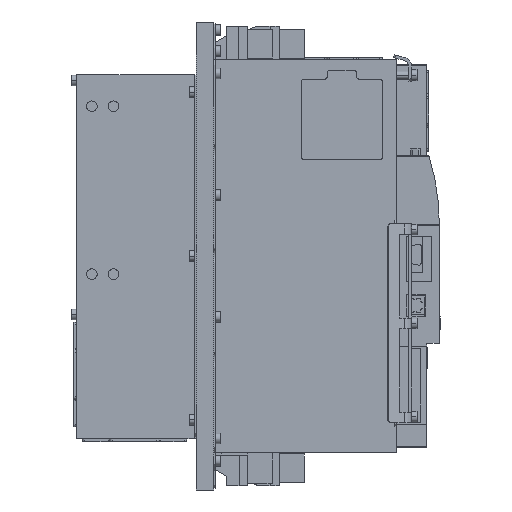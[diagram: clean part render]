
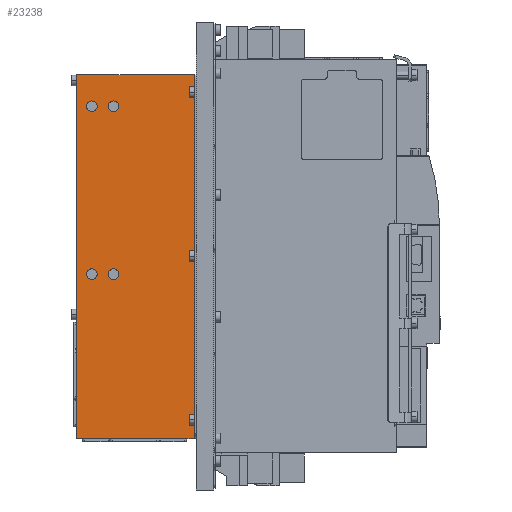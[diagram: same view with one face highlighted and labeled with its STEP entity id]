
A CAD part, left-side view. The second image highlights one B-rep face of the part: STEP entity #23238.
In plain terms, the highlighted planar face has unit normal (-1, 0, 0) as drawn and (1, 0, 0) by its records, which use the part's own axes.
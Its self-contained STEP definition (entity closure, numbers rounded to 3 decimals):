
#41 = VERTEX_POINT ( 'NONE', #45782 ) ;
#43 = CARTESIAN_POINT ( 'NONE',  ( 83.688, 31.5, 140.751 ) ) ;
#135 = EDGE_LOOP ( 'NONE', ( #6587, #6719 ) ) ;
#143 = DIRECTION ( 'NONE',  ( 0., -1., 0. ) ) ;
#1239 = VECTOR ( 'NONE', #143, 1000. ) ;
#1740 = ORIENTED_EDGE ( 'NONE', *, *, #8260, .T. ) ;
#1985 = ORIENTED_EDGE ( 'NONE', *, *, #17124, .F. ) ;
#2405 = CARTESIAN_POINT ( 'NONE',  ( 83.688, 17.5, 284.251 ) ) ;
#2430 = DIRECTION ( 'NONE',  ( 0., 1., 0. ) ) ;
#2535 = AXIS2_PLACEMENT_3D ( 'NONE', #13999, #34986, #10016 ) ;
#2546 = EDGE_CURVE ( 'NONE', #41, #40017, #32914, .T. ) ;
#2781 = DIRECTION ( 'NONE',  ( -1., 0., 0. ) ) ;
#2887 = EDGE_CURVE ( 'NONE', #41738, #35472, #14185, .T. ) ;
#3148 = DIRECTION ( 'NONE',  ( 0., 1., 0. ) ) ;
#3251 = DIRECTION ( 'NONE',  ( 0., 1., 0. ) ) ;
#3663 = LINE ( 'NONE', #17891, #1239 ) ;
#4352 = VERTEX_POINT ( 'NONE', #27409 ) ;
#5226 = DIRECTION ( 'NONE',  ( 0., 0., -1. ) ) ;
#5742 = DIRECTION ( 'NONE',  ( 0., 1., 0. ) ) ;
#6017 = DIRECTION ( 'NONE',  ( 0., 1., 0. ) ) ;
#6126 = CIRCLE ( 'NONE', #35954, 4.5 ) ;
#6154 = EDGE_CURVE ( 'NONE', #9887, #33244, #18867, .T. ) ;
#6390 = ORIENTED_EDGE ( 'NONE', *, *, #13138, .T. ) ;
#6441 = EDGE_CURVE ( 'NONE', #36557, #41, #14998, .T. ) ;
#6510 = CARTESIAN_POINT ( 'NONE',  ( 83.688, 13., 284.251 ) ) ;
#6540 = CIRCLE ( 'NONE', #27411, 4.5 ) ;
#6587 = ORIENTED_EDGE ( 'NONE', *, *, #43048, .T. ) ;
#6719 = ORIENTED_EDGE ( 'NONE', *, *, #43765, .T. ) ;
#6870 = CARTESIAN_POINT ( 'NONE',  ( 83.688, 31.5, 140.751 ) ) ;
#6916 = EDGE_CURVE ( 'NONE', #26405, #4352, #34292, .T. ) ;
#6918 = EDGE_LOOP ( 'NONE', ( #17568, #34307 ) ) ;
#8260 = EDGE_CURVE ( 'NONE', #31871, #44883, #41301, .T. ) ;
#9548 = DIRECTION ( 'NONE',  ( 1., 0., 0. ) ) ;
#9608 = CARTESIAN_POINT ( 'NONE',  ( 83.688, 17.5, 140.751 ) ) ;
#9627 = DIRECTION ( 'NONE',  ( 0., 0., -1. ) ) ;
#9876 = ORIENTED_EDGE ( 'NONE', *, *, #25798, .T. ) ;
#9887 = VERTEX_POINT ( 'NONE', #9608 ) ;
#9953 = VECTOR ( 'NONE', #32970, 1000. ) ;
#10016 = DIRECTION ( 'NONE',  ( 0., 1., 0. ) ) ;
#10054 = ORIENTED_EDGE ( 'NONE', *, *, #19365, .T. ) ;
#12218 = VECTOR ( 'NONE', #30347, 1000. ) ;
#12229 = ORIENTED_EDGE ( 'NONE', *, *, #6916, .T. ) ;
#13138 = EDGE_CURVE ( 'NONE', #44883, #31871, #16695, .T. ) ;
#13295 = FACE_BOUND ( 'NONE', #20358, .T. ) ;
#13841 = CARTESIAN_POINT ( 'NONE',  ( 83.688, 0., 311.251 ) ) ;
#13929 = AXIS2_PLACEMENT_3D ( 'NONE', #23771, #2781, #6017 ) ;
#13999 = CARTESIAN_POINT ( 'NONE',  ( 83.688, 31.5, 284.251 ) ) ;
#14185 = CIRCLE ( 'NONE', #32071, 4.5 ) ;
#14998 = LINE ( 'NONE', #32743, #9953 ) ;
#16468 = ORIENTED_EDGE ( 'NONE', *, *, #36524, .T. ) ;
#16511 = CARTESIAN_POINT ( 'NONE',  ( 83.688, 36., 284.251 ) ) ;
#16564 = FACE_BOUND ( 'NONE', #135, .T. ) ;
#16695 = CIRCLE ( 'NONE', #42815, 4.5 ) ;
#16736 = EDGE_LOOP ( 'NONE', ( #1985, #9876, #23906, #42927, #16468, #12229 ) ) ;
#17124 = EDGE_CURVE ( 'NONE', #45348, #4352, #22505, .T. ) ;
#17256 = CARTESIAN_POINT ( 'NONE',  ( 83.688, 0., 0. ) ) ;
#17568 = ORIENTED_EDGE ( 'NONE', *, *, #6154, .T. ) ;
#17597 = DIRECTION ( 'NONE',  ( -1., 0., 0. ) ) ;
#17667 = CARTESIAN_POINT ( 'NONE',  ( 83.688, 102., 1.26 ) ) ;
#17891 = CARTESIAN_POINT ( 'NONE',  ( 83.688, 99.75, 1.26 ) ) ;
#18462 = DIRECTION ( 'NONE',  ( -1., 0., 0. ) ) ;
#18867 = CIRCLE ( 'NONE', #24850, 4.5 ) ;
#19357 = CIRCLE ( 'NONE', #34905, 4.5 ) ;
#19365 = EDGE_CURVE ( 'NONE', #35472, #41738, #19357, .T. ) ;
#20358 = EDGE_LOOP ( 'NONE', ( #10054, #39191 ) ) ;
#20562 = DIRECTION ( 'NONE',  ( -1., 0., 0. ) ) ;
#22505 = LINE ( 'NONE', #40275, #37060 ) ;
#23238 = ADVANCED_FACE ( 'NONE', ( #30810, #38278, #13295, #16564, #33861 ), #24030, .T. ) ;
#23771 = CARTESIAN_POINT ( 'NONE',  ( 83.688, 13., 140.751 ) ) ;
#23804 = DIRECTION ( 'NONE',  ( 0., 1., 0. ) ) ;
#23900 = CARTESIAN_POINT ( 'NONE',  ( 83.688, 13., 140.751 ) ) ;
#23906 = ORIENTED_EDGE ( 'NONE', *, *, #2546, .F. ) ;
#24030 = PLANE ( 'NONE',  #43556 ) ;
#24488 = DIRECTION ( 'NONE',  ( -1., 0., 0. ) ) ;
#24850 = AXIS2_PLACEMENT_3D ( 'NONE', #23900, #41888, #2430 ) ;
#25798 = EDGE_CURVE ( 'NONE', #45348, #40017, #3663, .T. ) ;
#26391 = CARTESIAN_POINT ( 'NONE',  ( 83.688, -353.311, 0. ) ) ;
#26405 = VERTEX_POINT ( 'NONE', #17256 ) ;
#26909 = CARTESIAN_POINT ( 'NONE',  ( 83.688, 8.5, 284.251 ) ) ;
#27409 = CARTESIAN_POINT ( 'NONE',  ( 83.688, 102., 0. ) ) ;
#27411 = AXIS2_PLACEMENT_3D ( 'NONE', #6870, #17597, #3148 ) ;
#27582 = EDGE_CURVE ( 'NONE', #33244, #9887, #38530, .T. ) ;
#27864 = LINE ( 'NONE', #42106, #30280 ) ;
#28047 = CARTESIAN_POINT ( 'NONE',  ( 83.688, 27., 140.751 ) ) ;
#28283 = CARTESIAN_POINT ( 'NONE',  ( 83.688, 100.75, 1.26 ) ) ;
#28370 = VECTOR ( 'NONE', #29891, 1000. ) ;
#28768 = DIRECTION ( 'NONE',  ( 0., 1., 0. ) ) ;
#29891 = DIRECTION ( 'NONE',  ( 0., 0., -1. ) ) ;
#30280 = VECTOR ( 'NONE', #9627, 1000. ) ;
#30347 = DIRECTION ( 'NONE',  ( 0., 1., 0. ) ) ;
#30810 = FACE_OUTER_BOUND ( 'NONE', #16736, .T. ) ;
#31871 = VERTEX_POINT ( 'NONE', #43016 ) ;
#32071 = AXIS2_PLACEMENT_3D ( 'NONE', #6510, #24488, #3251 ) ;
#32743 = CARTESIAN_POINT ( 'NONE',  ( 83.688, -353.311, 311.251 ) ) ;
#32914 = LINE ( 'NONE', #36398, #28370 ) ;
#32970 = DIRECTION ( 'NONE',  ( 0., 1., 0. ) ) ;
#33244 = VERTEX_POINT ( 'NONE', #38785 ) ;
#33861 = FACE_BOUND ( 'NONE', #6918, .T. ) ;
#34013 = DIRECTION ( 'NONE',  ( -1., 0., 0. ) ) ;
#34292 = LINE ( 'NONE', #26391, #12218 ) ;
#34307 = ORIENTED_EDGE ( 'NONE', *, *, #27582, .T. ) ;
#34905 = AXIS2_PLACEMENT_3D ( 'NONE', #41254, #34013, #5742 ) ;
#34986 = DIRECTION ( 'NONE',  ( -1., 0., 0. ) ) ;
#35246 = CARTESIAN_POINT ( 'NONE',  ( 83.688, 31.5, 284.251 ) ) ;
#35472 = VERTEX_POINT ( 'NONE', #2405 ) ;
#35927 = VERTEX_POINT ( 'NONE', #43803 ) ;
#35954 = AXIS2_PLACEMENT_3D ( 'NONE', #43, #18462, #28768 ) ;
#36398 = CARTESIAN_POINT ( 'NONE',  ( 83.688, 100.75, 311.251 ) ) ;
#36524 = EDGE_CURVE ( 'NONE', #36557, #26405, #27864, .T. ) ;
#36557 = VERTEX_POINT ( 'NONE', #13841 ) ;
#36939 = VERTEX_POINT ( 'NONE', #28047 ) ;
#37060 = VECTOR ( 'NONE', #5226, 1000. ) ;
#38278 = FACE_BOUND ( 'NONE', #43013, .T. ) ;
#38530 = CIRCLE ( 'NONE', #13929, 4.5 ) ;
#38785 = CARTESIAN_POINT ( 'NONE',  ( 83.688, 8.5, 140.751 ) ) ;
#39191 = ORIENTED_EDGE ( 'NONE', *, *, #2887, .T. ) ;
#40017 = VERTEX_POINT ( 'NONE', #28283 ) ;
#40275 = CARTESIAN_POINT ( 'NONE',  ( 83.688, 102., 0. ) ) ;
#41254 = CARTESIAN_POINT ( 'NONE',  ( 83.688, 13., 284.251 ) ) ;
#41301 = CIRCLE ( 'NONE', #2535, 4.5 ) ;
#41557 = CARTESIAN_POINT ( 'NONE',  ( 83.688, -353.311, 0. ) ) ;
#41582 = DIRECTION ( 'NONE',  ( 0., 1., 0. ) ) ;
#41738 = VERTEX_POINT ( 'NONE', #26909 ) ;
#41888 = DIRECTION ( 'NONE',  ( -1., 0., 0. ) ) ;
#42106 = CARTESIAN_POINT ( 'NONE',  ( 83.688, 0., 0. ) ) ;
#42815 = AXIS2_PLACEMENT_3D ( 'NONE', #35246, #20562, #41582 ) ;
#42927 = ORIENTED_EDGE ( 'NONE', *, *, #6441, .F. ) ;
#43013 = EDGE_LOOP ( 'NONE', ( #6390, #1740 ) ) ;
#43016 = CARTESIAN_POINT ( 'NONE',  ( 83.688, 27., 284.251 ) ) ;
#43048 = EDGE_CURVE ( 'NONE', #35927, #36939, #6126, .T. ) ;
#43556 = AXIS2_PLACEMENT_3D ( 'NONE', #41557, #9548, #23804 ) ;
#43765 = EDGE_CURVE ( 'NONE', #36939, #35927, #6540, .T. ) ;
#43803 = CARTESIAN_POINT ( 'NONE',  ( 83.688, 36., 140.751 ) ) ;
#44883 = VERTEX_POINT ( 'NONE', #16511 ) ;
#45348 = VERTEX_POINT ( 'NONE', #17667 ) ;
#45782 = CARTESIAN_POINT ( 'NONE',  ( 83.688, 100.75, 311.251 ) ) ;
